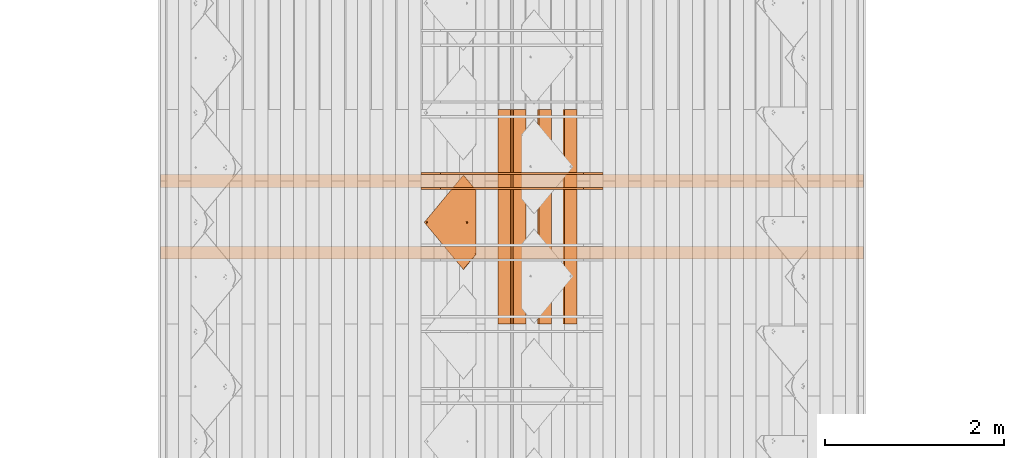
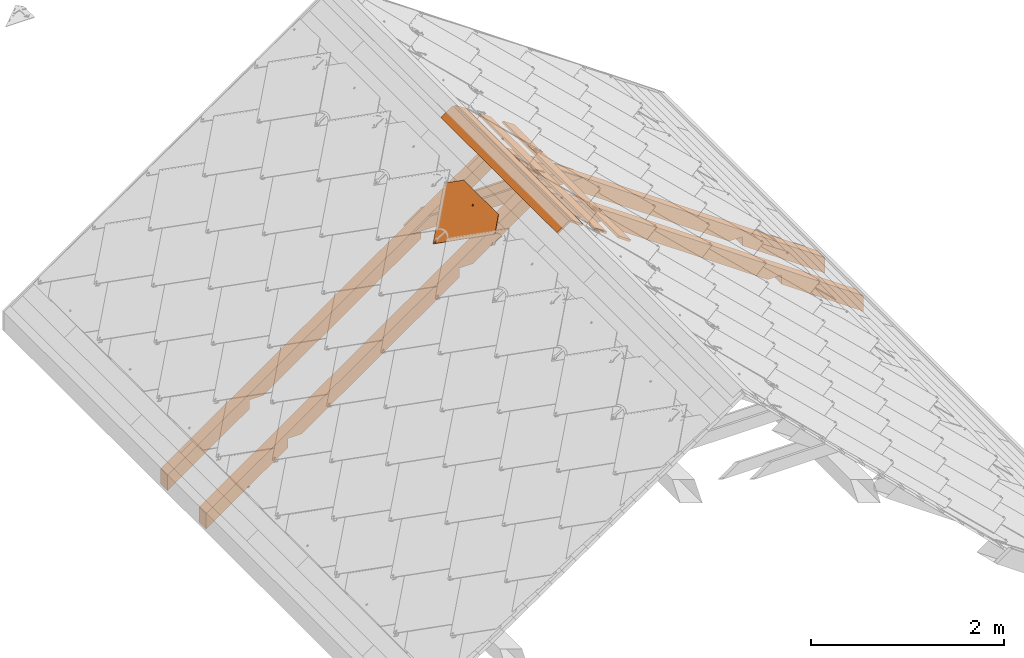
# One storey, part 61 of 151: 9 proxies, 1 element without a shape of its own.
"""IFC2X3 building model written with IfcOpenShell, lengths in millimetres."""

from ifc_helpers import new_model, entity, si_unit, converted_unit, derived_unit, direction, frame, frame_2d, origin, place, context, subcontext, project, spatial, polyline, rectangle, outline, extrude, faceted_brep, source, transform, mapped, material, material_list, type_object, type_shapes, element, aggregate, save


model = new_model("IFC2X3")

# Units and contexts
model_context = context("Model", 3, precision=0.01, world=origin(), true_north=direction((6.12303176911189e-17, 1.0)))
body_context = subcontext(model_context, "Body", "Model", "MODEL_VIEW")
ifc_project = project(units=[si_unit("LENGTHUNIT", "METRE", prefix="MILLI"), si_unit("AREAUNIT", "SQUARE_METRE"), si_unit("VOLUMEUNIT", "CUBIC_METRE"), converted_unit("PLANEANGLEUNIT", "DEGREE", entity("IfcRatioMeasure", 0.0174532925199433), si_unit("PLANEANGLEUNIT", "RADIAN"), dimensions=[0, 0, 0, 0, 0, 0, 0]), si_unit("MASSUNIT", "GRAM", prefix="KILO"), derived_unit("MASSDENSITYUNIT", [(si_unit("MASSUNIT", "GRAM", prefix="KILO"), 1), (si_unit("LENGTHUNIT", "METRE"), -3)]), si_unit("TIMEUNIT", "SECOND"), si_unit("FREQUENCYUNIT", "HERTZ"), si_unit("THERMODYNAMICTEMPERATUREUNIT", "DEGREE_CELSIUS"), derived_unit("THERMALTRANSMITTANCEUNIT", [(si_unit("MASSUNIT", "GRAM", prefix="KILO"), 1), (si_unit("THERMODYNAMICTEMPERATUREUNIT", "KELVIN"), -1), (si_unit("TIMEUNIT", "SECOND"), -3)]), derived_unit("VOLUMETRICFLOWRATEUNIT", [(si_unit("LENGTHUNIT", "METRE"), 3), (si_unit("TIMEUNIT", "SECOND"), -1)]), si_unit("ELECTRICCURRENTUNIT", "AMPERE"), si_unit("ELECTRICVOLTAGEUNIT", "VOLT"), si_unit("POWERUNIT", "WATT"), si_unit("FORCEUNIT", "NEWTON", prefix="KILO"), si_unit("ILLUMINANCEUNIT", "LUX"), si_unit("LUMINOUSFLUXUNIT", "LUMEN"), si_unit("LUMINOUSINTENSITYUNIT", "CANDELA"), derived_unit("USERDEFINED", [(si_unit("MASSUNIT", "GRAM", prefix="KILO"), -1), (si_unit("LENGTHUNIT", "METRE"), -2), (si_unit("TIMEUNIT", "SECOND"), 3), (si_unit("LUMINOUSFLUXUNIT", "LUMEN"), 1)]), derived_unit("LINEARVELOCITYUNIT", [(si_unit("LENGTHUNIT", "METRE"), 1), (si_unit("TIMEUNIT", "SECOND"), -1)]), si_unit("PRESSUREUNIT", "PASCAL"), derived_unit("USERDEFINED", [(si_unit("LENGTHUNIT", "METRE"), -2), (si_unit("MASSUNIT", "GRAM", prefix="KILO"), 1), (si_unit("TIMEUNIT", "SECOND"), -2)])], contexts=[model_context])

# Site, building, storey
site_placement = place(None, origin())
site = spatial("IfcSite", under=ifc_project, at=site_placement, Name="Default", CompositionType="ELEMENT")
building_placement = place(site_placement, origin())
building = spatial("IfcBuilding", under=site, at=building_placement, CompositionType="ELEMENT")
storey_placement = place(building_placement, origin())
storey = spatial("IfcBuildingStorey", under=building, at=storey_placement, Name="Level 1", CompositionType="ELEMENT", Elevation=0.0)

# Assembly, proxies
assembly_placement = place(storey_placement, origin())
assembly = element("IfcElementAssembly", 1, at=assembly_placement, inside=storey, Name="Structural Framing Assembly:Roof Construction Assembly", ObjectType="Structural Framing Assembly:Roof Construction Assembly", AssemblyPlace="NOTDEFINED", PredefinedType="USERDEFINED")
ifc_material_1 = material(Name="Wood - Generic - Wood For Showcase")
building_element_proxy_type_1 = type_object("IfcBuildingElementProxyType", Name="Structural Framing 1", PredefinedType="NOTDEFINED", material=ifc_material_1)
shared_shape_1 = source(origin(), body_context, "Body", "SweptSolid", [
    extrude(outline(polyline([(-929.245683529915, -1327.10037070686), (3863.25950492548, -1327.10037070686), (3975.29271103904, -1167.10037070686), (2778.93361405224, -1167.10037070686), (2713.54351952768, -1260.48710386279), (2580.17344271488, -1167.10037070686), (278.933614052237, -1167.10037070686), (213.54351952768, -1260.48710386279), (80.1734427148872, -1167.10037070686), (-817.212477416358, -1167.10037070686), (-1124.13653843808, -323.833443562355), (-1257.50661525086, -230.446710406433), (-1192.11652072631, -137.059977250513), (-1979.18689675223, 2025.39810840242), (-2112.55697356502, 2118.78484155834), (-2047.16687904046, 2212.17157471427), (-2456.34578886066, 3336.38138996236), (-2568.37899497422, 3176.38138996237), (-929.245683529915, -1327.10037070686)])), frame((1206.77890726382, 3785.55080214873, 1179.90959070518), z_axis=(0.0, 1.0, 0.0), x_axis=(0.819152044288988, 0.0, -0.573576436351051)), (0.0, 0.0, 1.0), 140.0),
])
type_shapes(building_element_proxy_type_1, [shared_shape_1])
proxy_1_placement = place(assembly_placement, frame((57.4878711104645, -3200.0, 0.0)))
proxy_1 = element("IfcBuildingElementProxy", 2, at=proxy_1_placement, type_object=building_element_proxy_type_1, material=ifc_material_1, Name="Structural Framing 5:Structural Framing 1", ObjectType="Structural Framing 5:Structural Framing 1", context=body_context, shape_type="MappedRepresentation", body=[
    mapped(shared_shape_1, transform((0.0, 0.0, 0.0), scale=1.0)),
])
building_element_proxy_type_2 = type_object("IfcBuildingElementProxyType", Name="Structural Framing 1", PredefinedType="NOTDEFINED", material=ifc_material_1)
shared_shape_2 = source(origin(), body_context, "Body", "SweptSolid", [
    extrude(outline(polyline([(-929.245683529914, -1327.10037070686), (3863.25950492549, -1327.10037070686), (3975.29271103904, -1167.10037070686), (2778.93361405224, -1167.10037070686), (2713.54351952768, -1260.48710386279), (2580.17344271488, -1167.10037070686), (278.933614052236, -1167.10037070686), (213.543519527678, -1260.48710386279), (80.1734427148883, -1167.10037070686), (-817.212477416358, -1167.10037070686), (-1124.13653843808, -323.833443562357), (-1257.50661525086, -230.446710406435), (-1192.11652072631, -137.059977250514), (-1979.18689675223, 2025.39810840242), (-2112.55697356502, 2118.78484155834), (-2047.16687904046, 2212.17157471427), (-2456.34578886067, 3336.38138996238), (-2568.37899497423, 3176.38138996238), (-929.245683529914, -1327.10037070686)])), frame((1206.77890726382, 3785.55080214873, 1179.90959070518), z_axis=(0.0, 1.0, 0.0), x_axis=(0.819152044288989, 0.0, -0.573576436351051)), (0.0, 0.0, 1.0), 140.0),
])
type_shapes(building_element_proxy_type_2, [shared_shape_2])
proxy_2_placement = place(assembly_placement, frame((57.4878711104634, -4000.0, 0.0)))
proxy_2 = element("IfcBuildingElementProxy", 3, at=proxy_2_placement, type_object=building_element_proxy_type_2, material=ifc_material_1, Name="Structural Framing 6:Structural Framing 1", ObjectType="Structural Framing 6:Structural Framing 1", context=body_context, shape_type="MappedRepresentation", body=[
    mapped(shared_shape_2, transform((0.0, 0.0, 0.0), scale=1.0)),
])
building_element_proxy_type_3 = type_object("IfcBuildingElementProxyType", Name="Structural Framing 15", PredefinedType="NOTDEFINED", material=ifc_material_1)
shared_shape_3 = source(origin(), body_context, "Body", "SweptSolid", [
    extrude(rectangle(XDim=24.9999999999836, YDim=174.344679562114, at=frame_2d((2.97539770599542e-13, -4.2632564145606e-14), x_axis=(1.0, 0.0))), frame((1285.35601305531, 1525.55080214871, 2760.23940055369), z_axis=(0.0, 1.0, 0.0), x_axis=(0.573576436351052, 0.0, 0.819152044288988)), (0.0, 0.0, 1.0), 2400.0),
])
type_shapes(building_element_proxy_type_3, [shared_shape_3])
proxy_3_placement = place(assembly_placement, frame((57.4878711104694, -2470.0, 0.0)))
proxy_3 = element("IfcBuildingElementProxy", 4, at=proxy_3_placement, type_object=building_element_proxy_type_3, material=ifc_material_1, Name="Structural Framing 156:Structural Framing 15", ObjectType="Structural Framing 156:Structural Framing 15", context=body_context, shape_type="MappedRepresentation", body=[
    mapped(shared_shape_3, transform((0.0, 0.0, 0.0), scale=1.0)),
])
building_element_proxy_type_4 = type_object("IfcBuildingElementProxyType", Name="Structural Framing 15", PredefinedType="NOTDEFINED", material=ifc_material_1)
shared_shape_4 = source(origin(), body_context, "Body", "SweptSolid", [
    extrude(rectangle(XDim=24.9999999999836, YDim=174.344679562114, at=frame_2d((2.97539770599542e-13, -4.2632564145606e-14), x_axis=(1.0, 0.0))), frame((1285.35601305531, 1525.55080214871, 2760.23940055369), z_axis=(0.0, 1.0, 0.0), x_axis=(0.573576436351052, 0.0, 0.819152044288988)), (0.0, 0.0, 1.0), 2400.0),
])
type_shapes(building_element_proxy_type_4, [shared_shape_4])
proxy_4_placement = place(assembly_placement, frame((343.11747245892, -2470.0, -200.0)))
proxy_4 = element("IfcBuildingElementProxy", 5, at=proxy_4_placement, type_object=building_element_proxy_type_4, material=ifc_material_1, Name="Structural Framing 166:Structural Framing 15", ObjectType="Structural Framing 166:Structural Framing 15", context=body_context, shape_type="MappedRepresentation", body=[
    mapped(shared_shape_4, transform((0.0, 0.0, 0.0), scale=1.0)),
])
building_element_proxy_type_5 = type_object("IfcBuildingElementProxyType", Name="Structural Framing 15", PredefinedType="NOTDEFINED", material=ifc_material_1)
shared_shape_5 = source(origin(), body_context, "Body", "SweptSolid", [
    extrude(rectangle(XDim=24.9999999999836, YDim=174.344679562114, at=frame_2d((2.97539770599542e-13, -4.2632564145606e-14), x_axis=(1.0, 0.0))), frame((1285.35601305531, 1525.55080214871, 2760.23940055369), z_axis=(0.0, 1.0, 0.0), x_axis=(0.573576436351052, 0.0, 0.819152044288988)), (0.0, 0.0, 1.0), 2400.0),
])
type_shapes(building_element_proxy_type_5, [shared_shape_5])
proxy_5_placement = place(assembly_placement, frame((628.747073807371, -2470.0, -400.0)))
proxy_5 = element("IfcBuildingElementProxy", 6, at=proxy_5_placement, type_object=building_element_proxy_type_5, material=ifc_material_1, Name="Structural Framing 176:Structural Framing 15", ObjectType="Structural Framing 176:Structural Framing 15", context=body_context, shape_type="MappedRepresentation", body=[
    mapped(shared_shape_5, transform((0.0, 0.0, 0.0), scale=1.0)),
])
building_element_proxy_type_6 = type_object("IfcBuildingElementProxyType", Name="Structural Framing 15", PredefinedType="NOTDEFINED", material=ifc_material_1)
shared_shape_6 = source(origin(), body_context, "Body", "SweptSolid", [
    extrude(rectangle(XDim=24.9999999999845, YDim=174.344679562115, at=frame_2d((-1.77635683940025e-13, -4.54747350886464e-13), x_axis=(0.0, 1.0))), frame((1128.20180147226, 1525.55080214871, 2760.23940055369), z_axis=(0.0, 1.0, 0.0), x_axis=(-0.819152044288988, 0.0, -0.573576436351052)), (0.0, 0.0, 1.0), 2400.0),
])
type_shapes(building_element_proxy_type_6, [shared_shape_6])
proxy_6_placement = place(assembly_placement, frame((57.4878711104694, -2470.0, 0.0)))
proxy_6 = element("IfcBuildingElementProxy", 7, at=proxy_6_placement, type_object=building_element_proxy_type_6, material=ifc_material_1, Name="Structural Framing 16:Structural Framing 15", ObjectType="Structural Framing 16:Structural Framing 15", context=body_context, shape_type="MappedRepresentation", body=[
    mapped(shared_shape_6, transform((0.0, 0.0, 0.0), scale=1.0)),
])
building_element_proxy_type_7 = type_object("IfcBuildingElementProxyType", Name="Structural Framing 296", PredefinedType="NOTDEFINED", material=ifc_material_1)
shared_shape_7 = source(origin(), body_context, "Body", "SweptSolid", [
    extrude(outline(polyline([(-1014.04699829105, -75.0), (1014.04699829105, -75.0), (799.824797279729, 75.0), (-799.824797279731, 75.0), (-1014.04699829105, -75.0)])), frame((1206.77890726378, 3760.55080214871, 2164.95664769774), z_axis=(0.0, 1.0, 0.0), x_axis=(-1.0, 0.0, 0.0)), (0.0, 0.0, 1.0), 24.9999999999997),
])
type_shapes(building_element_proxy_type_7, [shared_shape_7])
proxy_7_placement = place(assembly_placement, frame((57.4878711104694, -3200.0, 0.0)))
proxy_7 = element("IfcBuildingElementProxy", 8, at=proxy_7_placement, type_object=building_element_proxy_type_7, material=ifc_material_1, Name="Structural Framing 303:Structural Framing 296", ObjectType="Structural Framing 303:Structural Framing 296", context=body_context, shape_type="MappedRepresentation", body=[
    mapped(shared_shape_7, transform((0.0, 0.0, 0.0), scale=1.0)),
])
building_element_proxy_type_8 = type_object("IfcBuildingElementProxyType", Name="Structural Framing 296", PredefinedType="NOTDEFINED", material=ifc_material_1)
shared_shape_8 = source(origin(), body_context, "Body", "SweptSolid", [
    extrude(outline(polyline([(-1014.04699829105, -75.0), (1014.04699829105, -75.0), (799.824797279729, 75.0), (-799.824797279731, 75.0), (-1014.04699829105, -75.0)])), frame((1206.77890726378, 2325.55080214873, 2164.95664769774), z_axis=(0.0, 1.0, 0.0), x_axis=(-1.0, 0.0, 0.0)), (0.0, 0.0, 1.0), 25.0),
])
type_shapes(building_element_proxy_type_8, [shared_shape_8])
proxy_8_placement = place(assembly_placement, frame((57.4878711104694, -1600.0, 0.0)))
proxy_8 = element("IfcBuildingElementProxy", 9, at=proxy_8_placement, type_object=building_element_proxy_type_8, material=ifc_material_1, Name="Structural Framing 304:Structural Framing 296", ObjectType="Structural Framing 304:Structural Framing 296", context=body_context, shape_type="MappedRepresentation", body=[
    mapped(shared_shape_8, transform((0.0, 0.0, 0.0), scale=1.0)),
])
aggregate(assembly, [proxy_1, proxy_2, proxy_3, proxy_4, proxy_5, proxy_6, proxy_7, proxy_8])

# Proxy
ifc_material_2 = material(Name="Rubber - Sunstyle - Black")
ifc_material_3 = material(Name="Glass - Sunstyle - Tainted Black")
ifc_material_list_1 = material_list([ifc_material_2, ifc_material_3])
ifc_material_list_2 = material_list([ifc_material_2, ifc_material_3])
building_element_proxy_type_9 = type_object("IfcBuildingElementProxyType", Name="Shingle Top - Black", PredefinedType="NOTDEFINED", material=ifc_material_list_2)
shared_shape_9 = source(origin(), body_context, "Body", "Brep", [
    faceted_brep([(-518.396436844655, -96.9865733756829, 16.4476231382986), (-518.396436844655, -96.9614556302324, 17.9474128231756), (-526.881123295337, -88.4767691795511, 17.8053154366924), (-526.881123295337, -88.5018869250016, 16.3055257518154), (-376.996804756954, 61.3404039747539, 13.7960402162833), (-368.512118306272, 52.8557175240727, 13.9381376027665), (-376.996804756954, 61.3655217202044, 15.2958299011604), (-368.512118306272, 52.8808352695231, 15.4379272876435)], [[[0, 1, 2, 3]], [[0, 3, 4, 5]], [[3, 2, 6, 4]], [[2, 1, 7, 6]], [[1, 0, 5, 7]], [[5, 4, 6, 7]]]),
    faceted_brep([(0.166366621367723, -33.6374645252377, -4.47296585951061), (-5.6078362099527, -36.9707346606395, -4.4171418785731), (-5.60783620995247, -36.6024255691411, 17.5747274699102), (0.166366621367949, -33.2691554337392, 17.5189034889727), (-5.60783620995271, -43.6372749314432, -4.30549391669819), (-5.60783620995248, -43.2689658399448, 17.6863754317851), (0.166366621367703, -46.9705450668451, -4.24966993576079), (0.166366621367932, -46.6022359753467, 17.7421994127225), (5.94056945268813, -43.6372749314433, -4.30549391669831), (5.94056945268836, -43.2689658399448, 17.686375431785), (5.94056945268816, -36.9707346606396, -4.41714187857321), (5.94056945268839, -36.6024255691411, 17.5747274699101), (-8.43733754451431, -48.5381935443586, 17.774621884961), (0.16636662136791, -52.1014648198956, 17.8342978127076), (-12.0011084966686, -39.9356957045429, 17.6305514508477), (-8.43733754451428, -31.3331978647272, 17.4864810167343), (0.166366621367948, -27.7699265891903, 17.4268050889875), (8.77007078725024, -31.3331978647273, 17.4864810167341), (12.3338417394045, -39.935695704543, 17.6305514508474), (8.77007078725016, -48.5381935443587, 17.7746218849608), (-11.1578780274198, -37.6406185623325, 19.9433933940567), (-9.59010793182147, -39.8646808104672, 21.8708760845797), (0.166366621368, -32.5516055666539, 22.5035764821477), (0.166366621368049, -31.3111079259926, 21.9232298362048), (0.166366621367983, -29.1535570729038, 20.9138547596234), (0.166366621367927, -51.5454208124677, 19.1093557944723), (0.166366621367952, -50.6018442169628, 21.273060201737), (0.166366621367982, -47.1524685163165, 22.7481046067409), (0.166366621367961, -28.2829626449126, 18.7197675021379), (-6.15687907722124, -43.5022527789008, 22.6869725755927), (-6.15687907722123, -36.2018213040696, 22.5647085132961), (11.4906112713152, -42.1520387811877, 20.0189484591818), (10.0152467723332, -40.9390872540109, 21.7920079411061), (6.48961231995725, -36.2018213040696, 22.564708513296), (6.48961231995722, -43.5022527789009, 22.6869725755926), (-6.15687907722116, -43.3682243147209, 30.68986075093), (0.166366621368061, -47.0184400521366, 30.7509927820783), (0.166366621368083, -39.7180085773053, 30.6287287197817), (-6.15687907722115, -36.0677928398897, 30.5675966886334), (6.48961231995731, -43.368224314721, 30.6898607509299), (6.48961231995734, -36.0677928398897, 30.5675966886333), (0.166366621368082, -32.417577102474, 30.5064646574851), (0.166366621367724, -40.3040047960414, -4.36131789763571)], [[[0, 1, 2, 3]], [[1, 4, 5, 2]], [[4, 6, 7, 5]], [[6, 8, 9, 7]], [[8, 10, 11, 9]], [[10, 0, 3, 11]], [[12, 7, 13]], [[7, 12, 5]], [[14, 5, 12]], [[5, 14, 2]], [[15, 2, 14]], [[3, 2, 15]], [[15, 16, 3]], [[16, 17, 3]], [[11, 3, 17]], [[11, 17, 18]], [[9, 11, 18]], [[18, 19, 9]], [[7, 9, 19]], [[19, 13, 7]], [[20, 14, 12]], [[21, 22, 23, 24]], [[24, 20, 21]], [[25, 20, 12]], [[26, 27, 21]], [[15, 14, 20]], [[12, 13, 25]], [[20, 28, 15]], [[28, 20, 24]], [[21, 27, 29]], [[21, 29, 30]], [[26, 21, 20]], [[20, 25, 26]], [[15, 28, 16]], [[21, 30, 22]], [[31, 18, 17]], [[28, 31, 17]], [[32, 27, 26]], [[26, 31, 32]], [[26, 25, 31]], [[25, 19, 31]], [[17, 16, 28]], [[31, 19, 18]], [[24, 31, 28]], [[33, 34, 32]], [[23, 22, 33]], [[24, 32, 31]], [[27, 32, 34]], [[32, 23, 33]], [[19, 25, 13]], [[32, 24, 23]], [[35, 36, 37]], [[37, 38, 35]], [[36, 39, 37]], [[40, 37, 39]], [[37, 40, 41]], [[37, 41, 38]], [[42, 6, 4]], [[4, 1, 42]], [[1, 0, 42]], [[42, 8, 6]], [[0, 10, 42]], [[8, 42, 10]], [[22, 30, 38, 41]], [[30, 29, 35, 38]], [[29, 27, 36, 35]], [[27, 34, 39, 36]], [[34, 33, 40, 39]], [[33, 22, 41, 40]]]),
    faceted_brep([(0.0, -573.927138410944, 4.00636906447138), (-5.77420283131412, -577.260408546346, 4.0621930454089), (-5.77420283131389, -576.892099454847, 26.0540623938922), (0.0, -573.558829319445, 25.9982384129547), (-5.77420283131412, -583.926948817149, 4.1738410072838), (-5.7742028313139, -583.558639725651, 26.1657103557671), (0.0, -587.260218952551, 4.2296649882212), (0.0, -586.891909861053, 26.2215343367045), (5.77420283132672, -583.926948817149, 4.17384100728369), (5.77420283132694, -583.558639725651, 26.165710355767), (5.77420283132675, -577.260408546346, 4.06219304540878), (5.77420283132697, -576.892099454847, 26.0540623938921), (-8.60370416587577, -588.827867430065, 26.253956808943), (0.0, -592.391138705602, 26.3136327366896), (-12.1674751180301, -580.225369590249, 26.1098863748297), (-8.60370416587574, -571.622871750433, 25.9658159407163), (0.0, -568.059600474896, 25.9061400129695), (8.60370416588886, -571.622871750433, 25.9658159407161), (12.1674751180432, -580.225369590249, 26.1098863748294), (8.60370416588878, -588.827867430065, 26.2539568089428), (-11.3242446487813, -577.930292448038, 28.4227283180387), (-9.75647455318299, -580.154354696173, 30.3502110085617), (0.0, -572.84127945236, 30.9829114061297), (0.0, -571.600781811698, 30.4025647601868), (0.0, -569.44323095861, 29.3931896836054), (0.0, -591.835094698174, 27.5886907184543), (0.0, -590.891518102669, 29.752395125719), (0.0, -587.442142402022, 31.227439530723), (0.0, -568.572636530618, 27.1991024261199), (-6.32324569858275, -583.791926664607, 31.1663074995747), (-6.32324569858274, -576.491495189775, 31.0440434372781), (11.3242446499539, -582.441712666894, 28.4982833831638), (9.84888015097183, -581.228761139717, 30.2713428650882), (6.32324569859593, -576.491495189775, 31.044043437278), (6.32324569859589, -583.791926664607, 31.1663074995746), (-6.32324569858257, -583.657898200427, 39.169195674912), (0.0, -587.308113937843, 39.2303277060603), (0.0, -580.007682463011, 39.1080636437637), (-6.32324569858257, -576.357466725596, 39.0469316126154), (6.32324569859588, -583.657898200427, 39.1691956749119), (6.32324569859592, -576.357466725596, 39.0469316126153), (0.0, -572.70725098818, 38.9857995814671), (0.0, -580.593678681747, 4.11801702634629)], [[[0, 1, 2, 3]], [[1, 4, 5, 2]], [[4, 6, 7, 5]], [[6, 8, 9, 7]], [[8, 10, 11, 9]], [[10, 0, 3, 11]], [[12, 7, 13]], [[7, 12, 5]], [[14, 5, 12]], [[5, 14, 2]], [[15, 2, 14]], [[3, 2, 15]], [[15, 16, 3]], [[16, 17, 3]], [[11, 3, 17]], [[11, 17, 18]], [[9, 11, 18]], [[18, 19, 9]], [[7, 9, 19]], [[19, 13, 7]], [[20, 14, 12]], [[21, 22, 23, 24]], [[24, 20, 21]], [[25, 20, 12]], [[26, 27, 21]], [[15, 14, 20]], [[12, 13, 25]], [[20, 28, 15]], [[28, 20, 24]], [[21, 27, 29]], [[21, 29, 30]], [[26, 21, 20]], [[20, 25, 26]], [[15, 28, 16]], [[21, 30, 22]], [[31, 18, 17]], [[28, 31, 17]], [[32, 27, 26]], [[26, 31, 32]], [[26, 25, 31]], [[25, 19, 31]], [[17, 16, 28]], [[31, 19, 18]], [[24, 31, 28]], [[33, 34, 32]], [[23, 22, 33]], [[24, 32, 31]], [[27, 32, 34]], [[32, 23, 33]], [[19, 25, 13]], [[32, 24, 23]], [[35, 36, 37]], [[37, 38, 35]], [[36, 39, 37]], [[40, 37, 39]], [[37, 40, 41]], [[37, 41, 38]], [[42, 6, 4]], [[4, 1, 42]], [[1, 0, 42]], [[42, 8, 6]], [[0, 10, 42]], [[8, 42, 10]], [[22, 30, 38, 41]], [[30, 29, 35, 38]], [[29, 27, 36, 35]], [[27, 34, 39, 36]], [[34, 33, 40, 39]], [[33, 22, 41, 40]]]),
    faceted_brep([(518.482751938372, -96.8754983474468, 17.9260478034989), (526.967438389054, -88.3908118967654, 17.7839504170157), (526.967438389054, -88.3656941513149, 19.2837401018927), (518.482751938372, -96.8503806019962, 19.4258374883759), (349.749400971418, 71.8105397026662, 15.1009763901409), (358.234087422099, 80.2952261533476, 14.9588790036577), (358.234087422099, 80.3203438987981, 16.4586686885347), (349.749400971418, 71.8356574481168, 16.6007660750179)], [[[0, 1, 2, 3]], [[1, 0, 4, 5]], [[2, 1, 5, 6]], [[3, 2, 6, 7]], [[0, 3, 7, 4]], [[4, 7, 6, 5]]]),
    faceted_brep([(358.234087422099, 80.2952261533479, 14.9588790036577), (6.94661128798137, -35.8890860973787, 16.9046771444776), (7.74581466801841, -37.8182632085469, 16.9369860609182), (5.67526230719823, -34.2324641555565, 16.8769328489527), (8.01840805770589, -39.8885252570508, 16.9716577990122), (7.74581466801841, -41.9587873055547, 17.0063295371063), (6.94661128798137, -43.8879644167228, 17.0386384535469), (526.967438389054, -88.3908118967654, 17.7839504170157), (4.01840805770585, -32.9612934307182, 16.855643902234), (2.08896041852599, -32.1622021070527, 16.8422611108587), (0.0184080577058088, -31.8896469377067, 16.8376964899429), (-358.233442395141, 80.2952261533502, 14.9588790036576), (-2.05214430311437, -32.1622021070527, 16.8422611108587), (-3.98159194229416, -32.9612934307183, 16.855643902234), (-5.63844619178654, -34.2324641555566, 16.8769328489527), (-6.90979517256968, -35.8890860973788, 16.9046771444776), (-7.70899855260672, -37.8182632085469, 16.9369860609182), (-7.98159194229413, -39.8885252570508, 16.9716577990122), (-7.70899855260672, -41.9587873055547, 17.0063295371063), (-6.90979517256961, -43.8879644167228, 17.0386384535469), (-526.966793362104, -88.390811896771, 17.7839504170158), (-5.63844619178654, -45.544586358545, 17.0663827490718), (-5.6568542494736, -574.226981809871, 25.9204974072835), (-6.92820323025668, -575.883603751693, 25.9482417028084), (-7.72740661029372, -577.812780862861, 25.980550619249), (-8.0, -579.883042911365, 26.015222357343), (-7.72740661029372, -581.953304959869, 26.049894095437), (0.000322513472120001, -615.210165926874, 26.6068637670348), (7.72740661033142, -581.953304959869, 26.049894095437), (6.92820323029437, -583.882482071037, 26.0822030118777), (5.65685424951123, -585.53910401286, 26.1099473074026), (4.0, -586.810274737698, 26.1312362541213), (2.070552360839, -587.609366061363, 26.1446190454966), (0.0, -587.881921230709, 26.1491836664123), (-2.0705523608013, -587.609366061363, 26.1446190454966), (-4.0, -586.810274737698, 26.1312362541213), (-5.65685424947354, -585.53910401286, 26.1099473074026), (-6.92820323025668, -583.882482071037, 26.0822030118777), (-4.0, -572.955811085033, 25.8992084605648), (-3.98159194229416, -46.8157570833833, 17.0876716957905), (-2.07055236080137, -572.156719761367, 25.8858256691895), (-2.05214430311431, -47.614848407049, 17.1010544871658), (0.0, -571.884164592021, 25.8812610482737), (0.0184080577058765, -47.8874035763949, 17.1056191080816), (2.07055236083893, -572.156719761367, 25.8858256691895), (2.08896041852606, -47.6148484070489, 17.1010544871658), (4.0, -572.955811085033, 25.8992084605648), (4.01840805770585, -46.8157570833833, 17.0876716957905), (5.65685424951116, -574.226981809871, 25.9204974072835), (5.67526230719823, -45.544586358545, 17.0663827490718), (6.92820323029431, -575.883603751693, 25.9482417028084), (7.72740661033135, -577.812780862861, 25.980550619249), (8.0, -579.883042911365, 26.015222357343), (-358.233442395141, 80.1947551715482, 8.9597202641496), (-6.90979517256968, -35.9895570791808, 10.9055184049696), (-7.70899855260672, -37.9187341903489, 10.9378273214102), (-5.63844619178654, -34.3329351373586, 10.8777741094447), (-7.98159194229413, -39.9889962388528, 10.9724990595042), (-7.70899855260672, -42.0592582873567, 11.0071707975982), (-6.90979517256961, -43.9884353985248, 11.0394797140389), (-526.966793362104, -88.4912828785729, 11.7847916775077), (-3.98159194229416, -33.0617644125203, 10.856485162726), (-2.05214430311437, -32.2626730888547, 10.8431023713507), (0.0184080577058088, -31.9901179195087, 10.8385377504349), (358.234087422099, 80.1947551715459, 8.95972026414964), (2.08896041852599, -32.2626730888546, 10.8431023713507), (4.01840805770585, -33.0617644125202, 10.856485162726), (5.67526230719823, -34.3329351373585, 10.8777741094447), (6.94661128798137, -35.9895570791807, 10.9055184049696), (7.74581466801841, -37.9187341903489, 10.9378273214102), (8.01840805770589, -39.9889962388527, 10.9724990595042), (7.74581466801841, -42.0592582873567, 11.0071707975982), (6.94661128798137, -43.9884353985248, 11.0394797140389), (526.967438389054, -88.4912828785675, 11.7847916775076), (5.67526230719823, -45.645057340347, 11.0672240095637), (5.65685424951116, -574.327452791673, 19.9213386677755), (6.92820323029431, -575.984074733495, 19.9490829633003), (7.72740661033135, -577.913251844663, 19.981391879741), (8.0, -579.983513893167, 20.016063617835), (7.72740661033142, -582.053775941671, 20.050735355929), (0.000322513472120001, -615.310636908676, 20.6077050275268), (-7.72740661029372, -582.053775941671, 20.050735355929), (-6.92820323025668, -583.982953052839, 20.0830442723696), (-5.65685424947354, -585.639574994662, 20.1107885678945), (-4.0, -586.9107457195, 20.1320775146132), (-2.0705523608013, -587.709837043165, 20.1454603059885), (0.0, -587.982392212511, 20.1500249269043), (2.070552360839, -587.709837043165, 20.1454603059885), (4.0, -586.9107457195, 20.1320775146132), (5.65685424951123, -585.639574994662, 20.1107885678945), (6.92820323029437, -583.982953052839, 20.0830442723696), (4.01840805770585, -46.9162280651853, 11.0885129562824), (4.0, -573.056282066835, 19.9000497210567), (2.08896041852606, -47.7153193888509, 11.1018957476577), (2.07055236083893, -572.257190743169, 19.8866669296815), (0.0184080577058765, -47.9878745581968, 11.1064603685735), (0.0, -571.984635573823, 19.8821023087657), (-2.05214430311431, -47.7153193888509, 11.1018957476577), (-2.07055236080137, -572.257190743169, 19.8866669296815), (-3.98159194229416, -46.9162280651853, 11.0885129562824), (-4.0, -573.056282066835, 19.9000497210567), (-5.63844619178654, -45.645057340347, 11.0672240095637), (-5.6568542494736, -574.327452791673, 19.9213386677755), (-6.92820323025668, -575.984074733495, 19.9490829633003), (-7.72740661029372, -577.913251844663, 19.981391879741), (-8.0, -579.983513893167, 20.016063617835)], [[[0, 1, 2]], [[1, 0, 3]], [[0, 2, 4]], [[4, 5, 0]], [[5, 6, 0]], [[7, 0, 6]], [[8, 3, 0]], [[9, 8, 0]], [[10, 9, 0]], [[0, 11, 10]], [[12, 10, 11]], [[13, 12, 11]], [[14, 13, 11]], [[11, 15, 14]], [[15, 11, 16]], [[16, 11, 17]], [[11, 18, 17]], [[18, 11, 19]], [[11, 20, 19]], [[19, 20, 21]], [[20, 22, 21]], [[23, 22, 20]], [[24, 23, 20]], [[24, 20, 25]], [[26, 25, 20]], [[27, 26, 20]], [[7, 28, 27]], [[29, 27, 28]], [[27, 29, 30]], [[30, 31, 27]], [[31, 32, 27]], [[27, 32, 33]], [[27, 33, 34]], [[34, 35, 27]], [[27, 35, 36]], [[36, 37, 27]], [[37, 26, 27]], [[38, 21, 22]], [[38, 39, 21]], [[38, 40, 39]], [[40, 41, 39]], [[40, 42, 41]], [[41, 42, 43]], [[44, 43, 42]], [[44, 45, 43]], [[45, 44, 46]], [[46, 47, 45]], [[46, 48, 47]], [[48, 49, 47]], [[50, 7, 48]], [[48, 7, 49]], [[7, 50, 51]], [[7, 51, 52]], [[52, 28, 7]], [[7, 6, 49]], [[53, 54, 55]], [[54, 53, 56]], [[53, 55, 57]], [[58, 53, 57]], [[59, 53, 58]], [[60, 53, 59]], [[61, 56, 53]], [[62, 61, 53]], [[53, 63, 62]], [[63, 53, 64]], [[65, 63, 64]], [[66, 65, 64]], [[64, 67, 66]], [[67, 64, 68]], [[68, 64, 69]], [[70, 69, 64]], [[71, 70, 64]], [[72, 71, 64]], [[72, 64, 73]], [[72, 73, 74]], [[74, 73, 75]], [[73, 76, 75]], [[76, 73, 77]], [[77, 73, 78]], [[79, 78, 73]], [[79, 73, 80]], [[60, 81, 80]], [[80, 81, 82]], [[80, 82, 83]], [[83, 84, 80]], [[84, 85, 80]], [[85, 86, 80]], [[80, 86, 87]], [[80, 87, 88]], [[80, 88, 89]], [[79, 80, 90]], [[80, 89, 90]], [[75, 91, 74]], [[75, 92, 91]], [[92, 93, 91]], [[93, 92, 94]], [[93, 94, 95]], [[96, 95, 94]], [[97, 95, 96]], [[96, 98, 97]], [[98, 99, 97]], [[98, 100, 99]], [[100, 101, 99]], [[100, 102, 101]], [[60, 101, 102]], [[103, 60, 102]], [[103, 104, 60]], [[104, 105, 60]], [[105, 81, 60]], [[59, 101, 60]], [[27, 20, 60, 80]], [[7, 27, 80, 73]], [[0, 7, 73, 64]], [[25, 105, 104, 24]], [[24, 104, 103, 23]], [[38, 22, 102, 100]], [[102, 22, 23, 103]], [[40, 38, 100, 98]], [[40, 98, 96, 42]], [[42, 96, 94, 44]], [[44, 94, 92, 46]], [[50, 48, 75, 76]], [[75, 48, 46, 92]], [[51, 50, 76, 77]], [[51, 77, 78, 52]], [[52, 78, 79, 28]], [[28, 79, 90, 29]], [[31, 30, 89, 88]], [[29, 90, 89, 30]], [[87, 32, 31, 88]], [[32, 87, 86, 33]], [[34, 33, 86, 85]], [[34, 85, 84, 35]], [[37, 36, 83, 82]], [[35, 84, 83, 36]], [[37, 82, 81, 26]], [[26, 81, 105, 25]], [[17, 57, 55, 16]], [[16, 55, 54, 15]], [[13, 14, 56, 61]], [[56, 14, 15, 54]], [[12, 13, 61, 62]], [[12, 62, 63, 10]], [[10, 63, 65, 9]], [[9, 65, 66, 8]], [[1, 3, 67, 68]], [[67, 3, 8, 66]], [[2, 1, 68, 69]], [[2, 69, 70, 4]], [[4, 70, 71, 5]], [[5, 71, 72, 6]], [[47, 49, 74, 91]], [[74, 49, 6, 72]], [[45, 47, 91, 93]], [[45, 93, 95, 43]], [[43, 95, 97, 41]], [[41, 97, 99, 39]], [[19, 21, 101, 59]], [[101, 21, 39, 99]], [[18, 19, 59, 58]], [[18, 58, 57, 17]], [[11, 0, 64, 53]], [[20, 11, 53, 60]]]),
])
type_shapes(building_element_proxy_type_9, [shared_shape_9])
proxy_9_placement = place(storey_placement, frame((803.235278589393, 193.57469819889, 2507.70163321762), z_axis=(-0.57357643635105, 0.0, 0.819152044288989), x_axis=(0.0, -1.0, 0.0)))
element("IfcBuildingElementProxy", 10, at=proxy_9_placement, inside=storey, type_object=building_element_proxy_type_9, material=ifc_material_list_1, Name="Roofing_Panels_SunStyle_Tile_Shingle-Top:Shingle Top - Black", ObjectType="Roofing_Panels_SunStyle_Tile_Shingle-Top:Shingle Top - Black", context=body_context, shape_type="MappedRepresentation", body=[
    mapped(shared_shape_9, transform((0.0, 0.0, 0.0), scale=1.0)),
])

save(model, "model.ifc")
